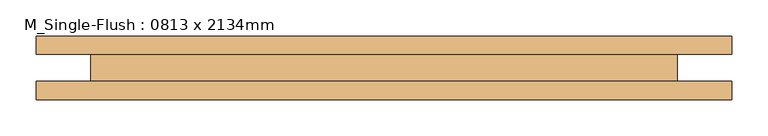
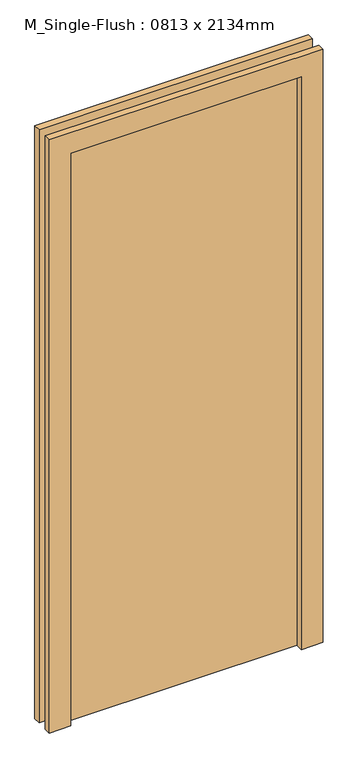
"""IFC4 building model written with IfcOpenShell, lengths in millimetres: door geometry, M_Single-Flush : 0813 x 2134mm."""

from ifc_helpers import new_model, si_unit, frame, origin, origin_with_axes, place, context, project, spatial, polyline, outline, extrude, source, transform, mapped, element, save


def m_single_flush_0813_x_2134mm_f6a4020b(model_context):
    return source(origin(), model_context, "Body", "SweptSolid", [
        extrude(outline(polyline([(2210.0, -482.5), (0.0, -482.5), (0.0, -406.5), (2134.0, -406.5), (2134.0, 406.5), (0.0, 406.5), (0.0, 482.5), (2210.0, 482.5), (2210.0, -482.5)])), frame((0.0, -44.0, 0.0), z_axis=(0.0, 1.0, 0.0), x_axis=(0.0, 0.0, 1.0)), (0.0, 0.0, 1.0), 25.0),
        extrude(outline(polyline([(2210.0, 482.5), (2210.0, -482.5), (0.0, -482.5), (0.0, -406.5), (2134.0, -406.5), (2134.0, 406.5), (0.0, 406.5), (0.0, 482.5), (2210.0, 482.5)])), frame((0.0, 19.0, 0.0), z_axis=(0.0, 1.0, 0.0), x_axis=(0.0, 0.0, 1.0)), (0.0, 0.0, 1.0), 25.0),
        extrude(outline(polyline([(406.5, 32.0), (406.5, -19.0), (-406.5, -19.0), (-406.5, 32.0), (406.5, 32.0)])), origin_with_axes(), (0.0, 0.0, 1.0), 2134.0),
    ])


if __name__ == "__main__":
    model = new_model("IFC4")
    model_context = context("Model", 3, world=origin())
    ifc_project = project(units=[si_unit("LENGTHUNIT", "METRE", prefix="MILLI")], contexts=[model_context])
    site = spatial("IfcSite", under=ifc_project)
    building = spatial("IfcBuilding", under=site)
    placement = place(None, origin())
    m_single_flush_0813_x_2134mm_shape = m_single_flush_0813_x_2134mm_f6a4020b(model_context)
    element("IfcDoor", 1, ObjectType="M_Single-Flush : 0813 x 2134mm", at=placement, inside=building, context=model_context, shape_type="MappedRepresentation", body=[
        mapped(m_single_flush_0813_x_2134mm_shape, transform((0.0, 0.0, 0.0), x_axis=(1.0, 0.0, 0.0), y_axis=(0.0, 1.0, 0.0), z_axis=(0.0, 0.0, 1.0))),
    ])
    save(model, "model.ifc")
